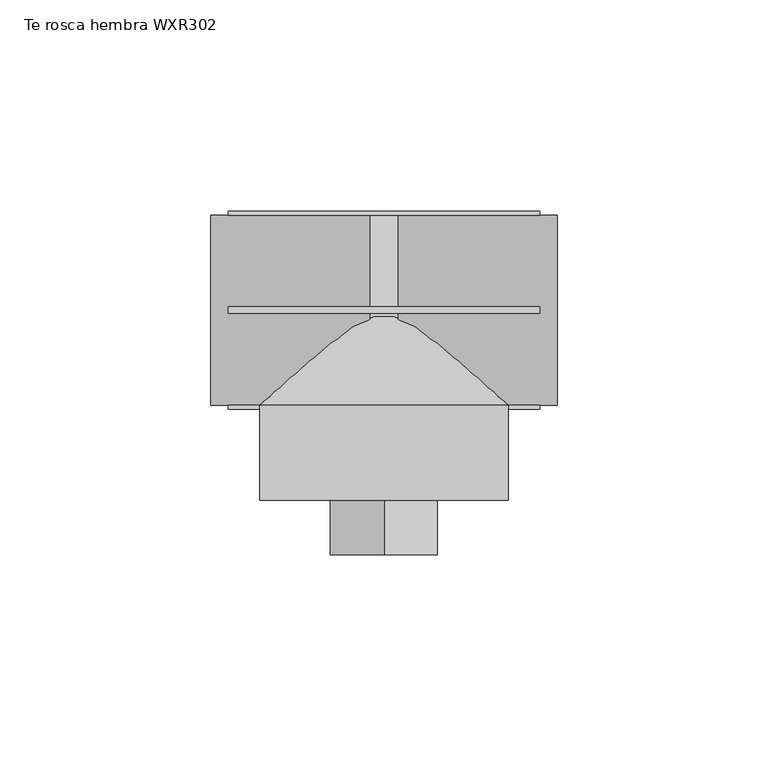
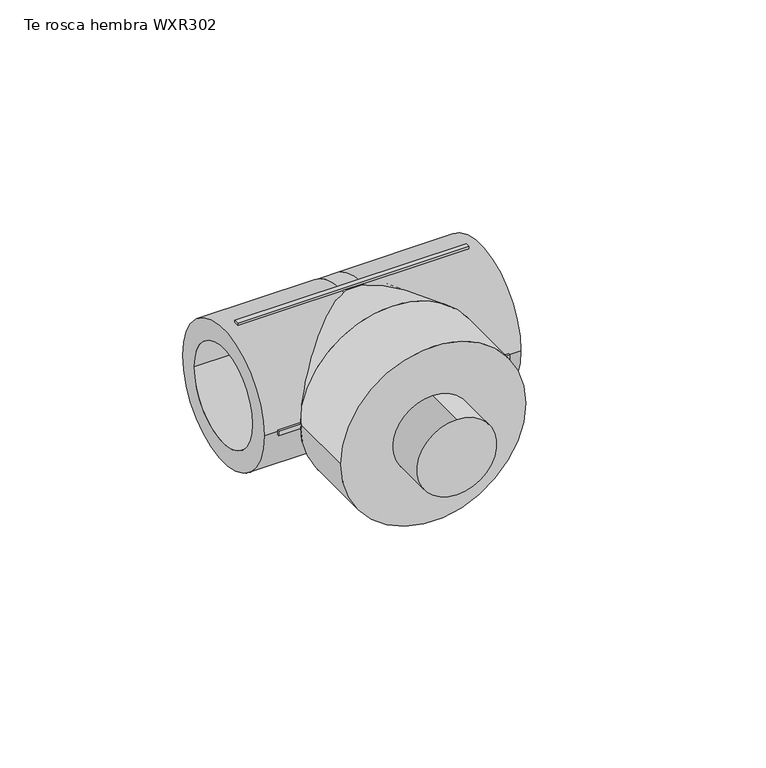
"""IFC4 building model written with IfcOpenShell, lengths in millimetres: pipe fitting geometry, EGB_VASEN_ PPR_Te rosca hembra WXR302 : Te rosca hembra WXR302."""

import ifcopenshell
import ifcopenshell.guid

model = None  # the IFC model being written
_history = None  # IfcOwnerHistory: only IFC2X3 demands one
_inside = {}  # id of a spatial element -> (the spatial element, [elements in it])
_under = {}  # id of a project, library or spatial element -> (it, [spatial elements below it])
_declared = {}  # id of a project -> (the project, [libraries it declares])
_typed = {}  # id of a type object -> (the type object, [elements of that type])
_made_of = {}  # id of a material, layer set ... -> (it, [elements and type objects made of it])


def new_model(schema):
    """Start an empty IFC model of exactly this schema.

    Asked for "IFC4X3", IfcOpenShell would pick the latest addendum, in which some entities
    have other attributes; the version numbers below select the first issue.
    IFC2X3 requires an IfcOwnerHistory on every rooted entity: one is made here for all.
    """
    global model, _history
    if schema == "IFC4X3":
        model = ifcopenshell.file(schema_version=(4, 3, 0, 0))
    else:
        model = ifcopenshell.file(schema=schema)
    _inside.clear()
    _under.clear()
    _declared.clear()
    _typed.clear()
    _made_of.clear()
    _history = None
    if model.schema == "IFC2X3":
        org = make("IfcOrganization", Name="unknown")
        user = make(
            "IfcPersonAndOrganization",
            ThePerson=make("IfcPerson", FamilyName="unknown"),
            TheOrganization=org,
        )
        app = make(
            "IfcApplication",
            ApplicationDeveloper=org,
            Version="unknown",
            ApplicationFullName="unknown",
            ApplicationIdentifier="unknown",
        )
        _history = make(
            "IfcOwnerHistory",
            OwningUser=user,
            OwningApplication=app,
            ChangeAction="ADDED",
            CreationDate=0,
        )
    return model


def make(cls, **values):
    """One entity of the class cls with the attributes given. An attribute that is None is left unset."""
    return model.create_entity(
        cls, **{name: value for name, value in values.items() if value is not None}
    )


def rooted(cls, **values):
    """An entity with a GlobalId (a new one), such as an element, a storey or a relation."""
    return make(cls, GlobalId=ifcopenshell.guid.new(), OwnerHistory=_history, **values)


def si_unit(unit_type, name, prefix=None):
    """IfcSIUnit, for example si_unit("LENGTHUNIT", "METRE", prefix="MILLI")."""
    return make("IfcSIUnit", UnitType=unit_type, Prefix=prefix, Name=name)


def assignment(units):
    """IfcUnitAssignment: the units of a project."""
    return None if units is None else make("IfcUnitAssignment", Units=units)


def point(xyz):
    """IfcCartesianPoint."""
    return None if xyz is None else make("IfcCartesianPoint", Coordinates=xyz)


def direction(xyz):
    """IfcDirection."""
    return None if xyz is None else make("IfcDirection", DirectionRatios=xyz)


def frame(location, z_axis=None, x_axis=None):
    """IfcAxis2Placement3D, a coordinate frame: its origin and axes. An axis left out is left unset."""
    return make(
        "IfcAxis2Placement3D",
        Location=point(location),
        Axis=direction(z_axis),
        RefDirection=direction(x_axis),
    )


def frame_2d(location, x_axis=None):
    """IfcAxis2Placement2D, a coordinate frame in the plane: its origin and x axis."""
    return make(
        "IfcAxis2Placement2D", Location=point(location), RefDirection=direction(x_axis)
    )


def origin():
    """The frame at (0, 0, 0) with its axes left unset."""
    return frame((0.0, 0.0, 0.0))


def origin_2d():
    """The frame at (0, 0) in the plane with its x axis left unset."""
    return frame_2d((0.0, 0.0))


def place(relative_to, where):
    """IfcLocalPlacement: puts the frame where relative to a parent placement (None: the world)."""
    return make(
        "IfcLocalPlacement", PlacementRelTo=relative_to, RelativePlacement=where
    )


def context(
    kind, dimensions, precision=None, world=None, true_north=None, identifier=None
):
    """IfcGeometricRepresentationContext, for example the 3D "Model" context."""
    return make(
        "IfcGeometricRepresentationContext",
        ContextIdentifier=identifier,
        ContextType=kind,
        CoordinateSpaceDimension=dimensions,
        Precision=precision,
        WorldCoordinateSystem=world,
        TrueNorth=true_north,
    )


def project(units=None, contexts=None):
    """IfcProject with its units and contexts."""
    return rooted(
        "IfcProject",
        Name="project",
        RepresentationContexts=contexts,
        UnitsInContext=assignment(units),
    )


def spatial(cls, under=None, at=None, **own):
    """A site, building, storey or space (cls), placed at a placement, below another one or the project."""
    s = rooted(cls, ObjectPlacement=at, **own)
    if under is not None:
        _under.setdefault(under.id(), (under, []))[1].append(s)
    return s


def polyline(points):
    """IfcPolyline through the points."""
    return make("IfcPolyline", Points=[point(p) for p in points])


def circle_curve(where, radius):
    """IfcCircle in the frame where."""
    return make("IfcCircle", Position=where, Radius=radius)


def trimmed(basis, trim1, trim2, sense, master):
    """IfcTrimmedCurve: the piece of a basis curve between two trims."""
    return make(
        "IfcTrimmedCurve",
        BasisCurve=basis,
        Trim1=trim1,
        Trim2=trim2,
        SenseAgreement=sense,
        MasterRepresentation=master,
    )


def segment(curve, same_sense, transition):
    """IfcCompositeCurveSegment."""
    return make(
        "IfcCompositeCurveSegment",
        Transition=transition,
        SameSense=same_sense,
        ParentCurve=curve,
    )


def composite_curve(segments, self_intersect=None):
    """IfcCompositeCurve: segments joined end to end."""
    return make("IfcCompositeCurve", Segments=segments, SelfIntersect=self_intersect)


def outline(outer, holes=None, kind="AREA"):
    """IfcArbitraryClosedProfileDef: a profile drawn as a closed curve; with holes, ...WithVoids."""
    if holes is None:
        return make("IfcArbitraryClosedProfileDef", ProfileType=kind, OuterCurve=outer)
    return make(
        "IfcArbitraryProfileDefWithVoids",
        ProfileType=kind,
        OuterCurve=outer,
        InnerCurves=holes,
    )


def extrude(swept, where, along, depth):
    """IfcExtrudedAreaSolid: the profile swept, set in the frame where, extruded along a direction by depth."""
    return make(
        "IfcExtrudedAreaSolid",
        SweptArea=swept,
        Position=where,
        ExtrudedDirection=direction(along),
        Depth=depth,
    )


def shape(context_of_items, identifier, shape_type, items):
    """IfcShapeRepresentation: the items that make up one representation, for example the "Body"."""
    return make(
        "IfcShapeRepresentation",
        ContextOfItems=context_of_items,
        RepresentationIdentifier=identifier,
        RepresentationType=shape_type,
        Items=items,
    )


def source(mapping_origin, context_of_items, identifier, shape_type, items):
    """IfcRepresentationMap: a shape defined once, which mapped items show again and again."""
    return make(
        "IfcRepresentationMap",
        MappingOrigin=mapping_origin,
        MappedRepresentation=shape(context_of_items, identifier, shape_type, items),
    )


def transform(
    local_origin,
    x_axis=None,
    y_axis=None,
    z_axis=None,
    scale=None,
    scale2=None,
    scale3=None,
    uniform=True,
):
    """IfcCartesianTransformationOperator3D, or its non-uniform kind. x_axis, y_axis, z_axis: its Axis1, 2, 3."""
    if uniform:
        return make(
            "IfcCartesianTransformationOperator3D",
            Axis1=direction(x_axis),
            Axis2=direction(y_axis),
            LocalOrigin=point(local_origin),
            Scale=scale,
            Axis3=direction(z_axis),
        )
    return make(
        "IfcCartesianTransformationOperator3DnonUniform",
        Axis1=direction(x_axis),
        Axis2=direction(y_axis),
        LocalOrigin=point(local_origin),
        Scale=scale,
        Axis3=direction(z_axis),
        Scale2=scale2,
        Scale3=scale3,
    )


def mapped(mapping_source, mapping_target):
    """IfcMappedItem: shows the shape of a source again, moved by a transform."""
    return make(
        "IfcMappedItem", MappingSource=mapping_source, MappingTarget=mapping_target
    )


def made_of(thing, what):
    """Note that an element or type object is made of a material, layer set ...; save() writes the relation."""
    if what is not None:
        _made_of.setdefault(what.id(), (what, []))[1].append(thing)
    return thing


def element(
    cls,
    number,
    at=None,
    inside=None,
    cuts=None,
    type_object=None,
    material=None,
    context=None,
    identifier="Body",
    shape_type=None,
    held_by="IfcProductDefinitionShape",
    body=None,
    shapes=None,
    **own,
):
    """One element of the class cls, such as IfcWall. Its Tag is "e" and its number.

    at: its placement. inside: the storey or other place that contains it. cuts: it is an
    opening in that element (IfcRelVoidsElement). A single representation is given by context,
    identifier, shape_type and body (its items); several are given by shapes. held_by: the class
    of the entity that holds the representations. save() writes the other relations.
    """
    e = rooted(cls, Tag="e%d" % number, ObjectPlacement=at, **own)
    if body is not None:
        shapes = [shape(context, identifier, shape_type, body)]
    if shapes is not None:
        e.Representation = make(held_by, Representations=shapes)
    if inside is not None:
        _inside.setdefault(inside.id(), (inside, []))[1].append(e)
    if cuts is not None:
        rooted(
            "IfcRelVoidsElement", RelatingBuildingElement=cuts, RelatedOpeningElement=e
        )
    if type_object is not None:
        _typed.setdefault(type_object.id(), (type_object, []))[1].append(e)
    return made_of(e, material)


def aggregate(whole, parts):
    """IfcRelAggregates: a whole, such as a stair, and the parts it consists of."""
    return rooted("IfcRelAggregates", RelatingObject=whole, RelatedObjects=parts)


def save(model, path):
    """Write the relations noted so far, then the file.

    IfcRelAggregates (storeys below a building ...), IfcRelContainedInSpatialStructure (elements
    in a storey), IfcRelDefinesByType, IfcRelAssociatesMaterial and IfcRelDeclares: one each for
    every whole, place, type object, material and project.
    """
    for whole, parts in _under.values():
        aggregate(whole, parts)
    for where, things in _inside.values():
        rooted(
            "IfcRelContainedInSpatialStructure",
            RelatedElements=things,
            RelatingStructure=where,
        )
    for kind, things in _typed.values():
        rooted("IfcRelDefinesByType", RelatedObjects=things, RelatingType=kind)
    for what, things in _made_of.values():
        rooted("IfcRelAssociatesMaterial", RelatedObjects=things, RelatingMaterial=what)
    for by, libraries in _declared.values():
        rooted("IfcRelDeclares", RelatingContext=by, RelatedDefinitions=libraries)
    model.write(path)


def plane_surface(at):
    """IfcPlane: the flat surface through the origin of the frame at, square to its z axis."""
    return make("IfcPlane", Position=at)


def cylinder_surface(at, radius):
    """IfcCylindricalSurface: all points at the distance radius from the z axis of the frame at."""
    return make("IfcCylindricalSurface", Position=at, Radius=radius)


def revolved_surface(curve, axis_point, axis_direction):
    """IfcSurfaceOfRevolution: the curve turned about the line through axis_point along axis_direction."""
    return make(
        "IfcSurfaceOfRevolution",
        SweptCurve=make("IfcArbitraryOpenProfileDef", ProfileType="CURVE", Curve=curve),
        AxisPosition=make("IfcAxis1Placement", Location=point(axis_point), Axis=direction(axis_direction)),
    )


def advanced_brep(points, edges, surfaces, faces):
    """IfcAdvancedBrep: a solid bounded by faces that lie on surfaces and meet in shared edges.

    An edge is (start, end): straight between two places in points (the first is 0);
    or (start, end, curve); or (start, end, curve, False) where it runs against its curve.
    A face is (place in surfaces, loops), or (place, loops, False) where it looks against
    its surface's normal. A loop lists edges by number (the first is 1), with a minus sign
    where the edge is run from its end to its start. The first loop is the outer one.
    """
    corners = [point(p) for p in points]
    vertices = [make("IfcVertexPoint", VertexGeometry=c) for c in corners]
    made = []
    for start, end, *more in edges:
        made.append(
            make(
                "IfcEdgeCurve",
                EdgeStart=vertices[start],
                EdgeEnd=vertices[end],
                EdgeGeometry=more[0] if more else make("IfcPolyline", Points=[corners[start], corners[end]]),
                SameSense=more[1] if len(more) > 1 else True,
            )
        )
    hull = []
    for where, loops, *sense in faces:
        bounds = []
        for j, loop in enumerate(loops):
            ring = [make("IfcOrientedEdge", EdgeElement=made[abs(k) - 1], Orientation=k > 0) for k in loop]
            bounds.append(
                make(
                    "IfcFaceOuterBound" if j == 0 else "IfcFaceBound",
                    Bound=make("IfcEdgeLoop", EdgeList=ring),
                    Orientation=True,
                )
            )
        hull.append(make("IfcAdvancedFace", Bounds=bounds, FaceSurface=surfaces[where], SameSense=sense[0] if sense else True))
    return make("IfcAdvancedBrep", Outer=make("IfcClosedShell", CfsFaces=hull))


def te_rosca_hembra_wxr302_59477cf2(model_context):
    return source(origin(), model_context, "Body", "SolidModel", [
        extrude(outline(composite_curve([segment(trimmed(circle_curve(origin_2d(), 12.7), [point((-12.7, 0.0))], [point((12.7, 0.0))], False, "CARTESIAN"), True, "CONTINUOUS"), segment(trimmed(circle_curve(origin_2d(), 12.7), [point((12.7, 0.0))], [point((-12.7, 0.0))], False, "CARTESIAN"), True, "CONTINUOUS")], self_intersect=False)), frame((0.0, -58.0, 0.0), z_axis=(0.0, 1.0, 0.0), x_axis=(0.0, 0.0, 1.0)), (0.0, 0.0, 1.0), 35.5),
        advanced_brep(
        [(3.28, -16.0, 0.0), (3.28, 16.0, 0.0), (-3.28, 16.0, 0.0), (-3.28, -16.0, 0.0), (-3.28, 22.5, 0.0), (3.28, 22.5, 0.0), (3.28, -22.5, 0.0), (-3.28, -22.5, 0.0), (41.0, -22.5, 0.0), (41.0, 22.5, 0.0), (41.0, -16.0, 0.0), (41.0, 16.0, 0.0), (-41.0, -22.5, 0.0), (-41.0, 22.5, 0.0), (-41.0, -16.0, 0.0), (-41.0, 16.0, 0.0)],
        [
            (0, 1, circle_curve(frame((3.28, 0.0, 0.0), z_axis=(1.0, 0.0, 0.0), x_axis=(0.0, 1.0, 0.0)), 16.0)),
            (1, 0, circle_curve(frame((3.28, 0.0, 0.0), z_axis=(1.0, 0.0, 0.0), x_axis=(0.0, 1.0, 0.0)), 16.0)),
            (2, 3, circle_curve(frame((-3.28, 0.0, 0.0), z_axis=(-1.0, 0.0, 0.0), x_axis=(0.0, 1.0, 0.0)), 16.0)),
            (3, 2, circle_curve(frame((-3.28, 0.0, 0.0), z_axis=(-1.0, 0.0, 0.0), x_axis=(0.0, 1.0, 0.0)), 16.0)),
            (4, 5),
            (5, 6, circle_curve(frame((3.28, 0.0, 0.0), z_axis=(-1.0, 0.0, 0.0), x_axis=(0.0, 0.0, -1.0)), 22.5)),
            (6, 7),
            (7, 4, circle_curve(frame((-3.28, 0.0, 0.0), z_axis=(1.0, 0.0, 0.0), x_axis=(0.0, 0.0, -1.0)), 22.5)),
            (4, 7, circle_curve(frame((-3.28, 0.0, 0.0), z_axis=(1.0, 0.0, 0.0), x_axis=(0.0, 0.0, 1.0)), 22.5)),
            (6, 5, circle_curve(frame((3.28, 0.0, 0.0), z_axis=(-1.0, 0.0, 0.0), x_axis=(0.0, 0.0, 1.0)), 22.5)),
            (8, 9, circle_curve(frame((41.0, 0.0, 0.0), z_axis=(1.0, 0.0, 0.0), x_axis=(0.0, 1.0, 0.0)), 22.5)),
            (9, 8, circle_curve(frame((41.0, 0.0, 0.0), z_axis=(1.0, 0.0, 0.0), x_axis=(0.0, 1.0, 0.0)), 22.5)),
            (10, 11, circle_curve(frame((41.0, 0.0, 0.0), z_axis=(-1.0, 0.0, 0.0), x_axis=(0.0, 1.0, 0.0)), 16.0)),
            (11, 10, circle_curve(frame((41.0, 0.0, 0.0), z_axis=(-1.0, 0.0, 0.0), x_axis=(0.0, 1.0, 0.0)), 16.0)),
            (9, 5),
            (6, 8),
            (11, 1),
            (0, 10),
            (12, 13, circle_curve(frame((-41.0, 0.0, 0.0), z_axis=(-1.0, 0.0, 0.0), x_axis=(0.0, 1.0, 0.0)), 22.5)),
            (13, 12, circle_curve(frame((-41.0, 0.0, 0.0), z_axis=(-1.0, 0.0, 0.0), x_axis=(0.0, 1.0, 0.0)), 22.5)),
            (14, 15, circle_curve(frame((-41.0, 0.0, 0.0), z_axis=(1.0, 0.0, 0.0), x_axis=(0.0, 1.0, 0.0)), 16.0)),
            (15, 14, circle_curve(frame((-41.0, 0.0, 0.0), z_axis=(1.0, 0.0, 0.0), x_axis=(0.0, 1.0, 0.0)), 16.0)),
            (12, 7),
            (4, 13),
            (14, 3),
            (2, 15),
        ],
        [
            plane_surface(frame((3.28, 0.0, 0.0), z_axis=(1.0, 0.0, 0.0), x_axis=(0.0, 0.0, -1.0))),
            plane_surface(frame((-3.28, 0.0, 0.0), z_axis=(-1.0, 0.0, 0.0), x_axis=(0.0, 0.0, -1.0))),
            cylinder_surface(frame((-3.28, 0.0, 0.0), z_axis=(1.0, 0.0, 0.0), x_axis=(0.0, 0.0, -1.0)), 22.5),
            cylinder_surface(frame((-3.28, 0.0, 0.0), z_axis=(1.0, 0.0, 0.0), x_axis=(0.0, 0.0, 1.0)), 22.5),
            plane_surface(frame((41.0, 0.0, 0.0), z_axis=(1.0, 0.0, 0.0), x_axis=(0.0, 0.0, 1.0))),
            cylinder_surface(frame((3.28, 0.0, 0.0), z_axis=(-1.0, 0.0, 0.0), x_axis=(0.0, 1.0, 0.0)), 22.5),
            revolved_surface(polyline([(41.0, 16.0, 0.0), (3.28, 16.0, 0.0)]), (3.28, 0.0, 0.0), (1.0, 0.0, 0.0)),
            plane_surface(frame((-41.0, 0.0, 0.0), z_axis=(-1.0, 0.0, 0.0), x_axis=(0.0, 0.0, 1.0))),
            cylinder_surface(frame((-41.0, 0.0, 0.0), z_axis=(-1.0, 0.0, 0.0), x_axis=(0.0, 1.0, 0.0)), 22.5),
            revolved_surface(polyline([(-3.280000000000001, 16.0, 0.0), (-41.0, 16.0, 0.0)]), (-41.0, 0.0, 0.0), (1.0, 0.0, 0.0)),
        ],
        [
            (0, [[1, 2]]),
            (1, [[3, 4]]),
            (2, [[5, 6, 7, 8]]),
            (3, [[-5, 9, -7, 10]]),
            (4, [[11, 12], [13, 14]]),
            (5, [[-12, 15, -10, 16]]),
            (5, [[-11, -16, -6, -15]]),
            (6, [[-14, 17, -1, 18]]),
            (6, [[-13, -18, -2, -17]]),
            (7, [[19, 20], [21, 22]]),
            (8, [[-19, 23, -9, 24]]),
            (8, [[-20, -24, -8, -23]]),
            (9, [[-21, 25, -3, 26]]),
            (9, [[-22, -26, -4, -25]]),
        ],
    ),
        extrude(outline(composite_curve([segment(trimmed(circle_curve(origin_2d(), 29.5), [point((0.0, 29.5))], [point((0.0, -29.5))], False, "CARTESIAN"), True, "CONTINUOUS"), segment(trimmed(circle_curve(origin_2d(), 29.5), [point((0.0, -29.5))], [point((0.0, 29.5))], False, "CARTESIAN"), True, "CONTINUOUS")], self_intersect=False), holes=[composite_curve([segment(trimmed(circle_curve(origin_2d(), 12.7), [point((0.0, 12.7))], [point((0.0, -12.7))], True, "CARTESIAN"), True, "CONTINUOUS"), segment(trimmed(circle_curve(origin_2d(), 12.7), [point((0.0, -12.7))], [point((0.0, 12.7))], True, "CARTESIAN"), True, "CONTINUOUS")], self_intersect=False)]), frame((0.0, -45.0, 0.0), z_axis=(0.0, 1.0, 0.0), x_axis=(0.0, 0.0, 1.0)), (0.0, 0.0, 1.0), 22.5),
        advanced_brep(
        [(22.5, 0.0, 0.0), (-22.5, 0.0, 0.0), (29.5, -22.5, 0.0), (-29.5, -22.5, 0.0)],
        [
            (0, 1, circle_curve(frame((0.0, 0.0, 0.0), z_axis=(0.0, 1.0, 0.0), x_axis=(1.0, 0.0, 0.0)), 22.5)),
            (1, 0, circle_curve(frame((0.0, 0.0, 0.0), z_axis=(0.0, 1.0, 0.0), x_axis=(-1.0, 0.0, 0.0)), 22.5)),
            (2, 3, circle_curve(frame((0.0, -22.5, 0.0), z_axis=(0.0, -1.0, 0.0), x_axis=(-1.0, 0.0, 0.0)), 29.5)),
            (3, 2, circle_curve(frame((0.0, -22.5, 0.0), z_axis=(0.0, -1.0, 0.0), x_axis=(1.0, 0.0, 0.0)), 29.5)),
            (3, 1),
            (0, 2),
        ],
        [
            plane_surface(frame((0.0, 0.0, 0.0), z_axis=(0.0, 1.0, 0.0), x_axis=(0.0, 0.0, -1.0))),
            plane_surface(frame((0.0, -22.5, 0.0), z_axis=(0.0, -1.0, 0.0), x_axis=(0.0, 0.0, -1.0))),
            revolved_surface(polyline([(22.50000000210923, 0.0, 0.0), (29.5, -22.5, 0.0)]), (0.0, 72.3214286, 0.0), (0.0, -1.0, 0.0)),
            revolved_surface(polyline([(-22.50000000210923, 0.0, 0.0), (-29.5, -22.5, 0.0)]), (0.0, 72.3214286, 0.0), (0.0, -1.0, 0.0)),
        ],
        [
            (0, [[1, 2]]),
            (1, [[3, 4]]),
            (2, [[-4, 5, -1, 6]]),
            (3, [[-3, -6, -2, -5]]),
        ],
    ),
        extrude(outline(polyline([(36.9, 0.75), (36.9, -0.75), (-36.9, -0.75), (-36.9, 0.75), (36.9, 0.75)])), frame((0.0, 0.0, 21.5), z_axis=(0.0, 0.0, 1.0), x_axis=(1.0, 0.0, 0.0)), (0.0, 0.0, 1.0), 2.0),
        extrude(outline(polyline([(36.9, 0.75), (36.9, -0.75), (-36.9, -0.75), (-36.9, 0.75), (36.9, 0.75)])), frame((0.0, 0.0, -23.5), z_axis=(0.0, 0.0, 1.0), x_axis=(1.0, 0.0, 0.0)), (0.0, 0.0, 1.0), 2.0),
        extrude(outline(polyline([(36.9, 23.5), (36.9, 21.5), (-36.9, 21.5), (-36.9, 23.5), (36.9, 23.5)])), frame((0.0, 0.0, -0.75), z_axis=(0.0, 0.0, 1.0), x_axis=(1.0, 0.0, 0.0)), (0.0, 0.0, 1.0), 1.5),
        extrude(outline(polyline([(36.9, -21.5), (36.9, -23.5), (-36.9, -23.5), (-36.9, -21.5), (36.9, -21.5)])), frame((0.0, 0.0, -0.75), z_axis=(0.0, 0.0, 1.0), x_axis=(1.0, 0.0, 0.0)), (0.0, 0.0, 1.0), 1.5),
    ])


if __name__ == "__main__":
    model = new_model("IFC4")
    model_context = context("Model", 3, world=origin())
    ifc_project = project(units=[si_unit("LENGTHUNIT", "METRE", prefix="MILLI")], contexts=[model_context])
    site = spatial("IfcSite", under=ifc_project)
    building = spatial("IfcBuilding", under=site)
    placement = place(None, origin())
    te_rosca_hembra_wxr302_shape = te_rosca_hembra_wxr302_59477cf2(model_context)
    element("IfcPipeFitting", 1, ObjectType="EGB_VASEN_ PPR_Te rosca hembra WXR302 : Te rosca hembra WXR302", at=placement, inside=building, context=model_context, shape_type="MappedRepresentation", body=[
        mapped(te_rosca_hembra_wxr302_shape, transform((0.0, 0.0, 0.0), x_axis=(1.0, 0.0, 0.0), y_axis=(0.0, 1.0, 0.0), z_axis=(0.0, 0.0, 1.0))),
    ])
    save(model, "model.ifc")
